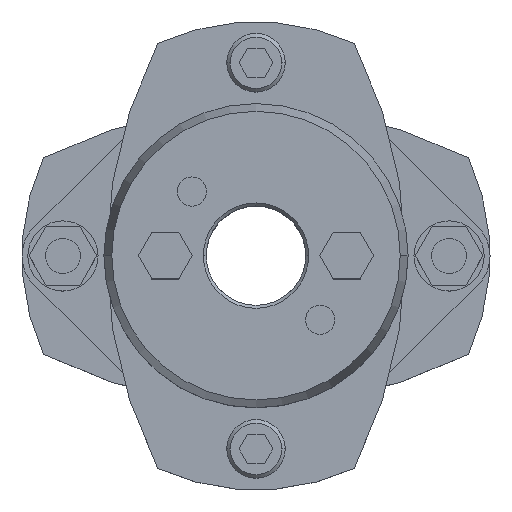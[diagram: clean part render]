
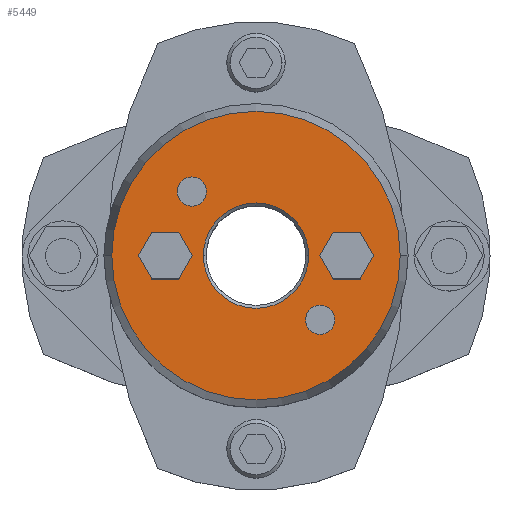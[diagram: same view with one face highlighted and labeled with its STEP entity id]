
A CAD part, top view. The second image highlights one B-rep face of the part: STEP entity #5449.
In plain terms, the highlighted planar face has unit normal (0, 0, 1).
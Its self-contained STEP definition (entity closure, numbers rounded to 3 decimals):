
#857=CARTESIAN_POINT('',(-9.,0.,35.875));
#858=VERTEX_POINT('',#857);
#874=CARTESIAN_POINT('',(9.,0.,35.875));
#875=VERTEX_POINT('',#874);
#882=CARTESIAN_POINT('',(0.,0.,35.875));
#883=DIRECTION('',(0.0,0.0,1.0));
#884=DIRECTION('',(-1.0,0.0,0.0));
#885=AXIS2_PLACEMENT_3D('',#882,#883,#884);
#886=CIRCLE('',#885,9.0);
#887=EDGE_CURVE('',#875,#858,#886,.T.);
#1045=CARTESIAN_POINT('',(24.66,0.,35.875));
#1046=VERTEX_POINT('',#1045);
#1053=CARTESIAN_POINT('',(-24.66,0.,35.875));
#1054=VERTEX_POINT('',#1053);
#1055=CARTESIAN_POINT('',(0.,0.,35.875));
#1056=DIRECTION('',(0.0,0.0,-1.0));
#1057=DIRECTION('',(1.0,0.0,0.0));
#1058=AXIS2_PLACEMENT_3D('',#1055,#1056,#1057);
#1059=CIRCLE('',#1058,24.66);
#1060=EDGE_CURVE('',#1046,#1054,#1059,.T.);
#1155=CARTESIAN_POINT('',(-13.46,10.96,35.875));
#1156=VERTEX_POINT('',#1155);
#1172=CARTESIAN_POINT('',(-8.46,10.96,35.875));
#1173=VERTEX_POINT('',#1172);
#1180=CARTESIAN_POINT('',(-10.96,10.96,35.875));
#1181=DIRECTION('',(0.0,0.0,-1.0));
#1182=DIRECTION('',(-1.0,0.0,0.0));
#1183=AXIS2_PLACEMENT_3D('',#1180,#1181,#1182);
#1184=CIRCLE('',#1183,2.5);
#1185=EDGE_CURVE('',#1156,#1173,#1184,.T.);
#1197=CARTESIAN_POINT('',(8.46,-10.96,35.875));
#1198=VERTEX_POINT('',#1197);
#1214=CARTESIAN_POINT('',(13.46,-10.96,35.875));
#1215=VERTEX_POINT('',#1214);
#1222=CARTESIAN_POINT('',(10.96,-10.96,35.875));
#1223=DIRECTION('',(0.0,0.0,-1.0));
#1224=DIRECTION('',(-1.0,0.0,0.0));
#1225=AXIS2_PLACEMENT_3D('',#1222,#1223,#1224);
#1226=CIRCLE('',#1225,2.5);
#1227=EDGE_CURVE('',#1198,#1215,#1226,.T.);
#4693=CARTESIAN_POINT('',(10.881,0.,35.875));
#4694=VERTEX_POINT('',#4693);
#4701=CARTESIAN_POINT('',(13.191,-4.,35.875));
#4702=VERTEX_POINT('',#4701);
#4703=CARTESIAN_POINT('',(13.191,-4.,35.875));
#4704=DIRECTION('',(-0.5,0.866,0.0));
#4705=VECTOR('',#4704,4.619);
#4706=LINE('',#4703,#4705);
#4707=EDGE_CURVE('',#4702,#4694,#4706,.T.);
#4731=CARTESIAN_POINT('',(13.191,4.,35.875));
#4732=VERTEX_POINT('',#4731);
#4739=CARTESIAN_POINT('',(10.881,0.,35.875));
#4740=DIRECTION('',(0.5,0.866,0.0));
#4741=VECTOR('',#4740,4.619);
#4742=LINE('',#4739,#4741);
#4743=EDGE_CURVE('',#4694,#4732,#4742,.T.);
#4762=CARTESIAN_POINT('',(17.809,4.,35.875));
#4763=VERTEX_POINT('',#4762);
#4770=CARTESIAN_POINT('',(13.191,4.,35.875));
#4771=DIRECTION('',(1.0,0.0,0.0));
#4772=VECTOR('',#4771,4.619);
#4773=LINE('',#4770,#4772);
#4774=EDGE_CURVE('',#4732,#4763,#4773,.T.);
#4793=CARTESIAN_POINT('',(20.119,0.,35.875));
#4794=VERTEX_POINT('',#4793);
#4801=CARTESIAN_POINT('',(17.809,4.,35.875));
#4802=DIRECTION('',(0.5,-0.866,0.0));
#4803=VECTOR('',#4802,4.619);
#4804=LINE('',#4801,#4803);
#4805=EDGE_CURVE('',#4763,#4794,#4804,.T.);
#4824=CARTESIAN_POINT('',(17.809,-4.,35.875));
#4825=VERTEX_POINT('',#4824);
#4832=CARTESIAN_POINT('',(20.119,0.,35.875));
#4833=DIRECTION('',(-0.5,-0.866,0.0));
#4834=VECTOR('',#4833,4.619);
#4835=LINE('',#4832,#4834);
#4836=EDGE_CURVE('',#4794,#4825,#4835,.T.);
#4854=CARTESIAN_POINT('',(17.809,-4.,35.875));
#4855=DIRECTION('',(-1.0,0.0,0.0));
#4856=VECTOR('',#4855,4.619);
#4857=LINE('',#4854,#4856);
#4858=EDGE_CURVE('',#4825,#4702,#4857,.T.);
#4893=CARTESIAN_POINT('',(-20.119,0.,35.875));
#4894=VERTEX_POINT('',#4893);
#4901=CARTESIAN_POINT('',(-17.809,-4.,35.875));
#4902=VERTEX_POINT('',#4901);
#4903=CARTESIAN_POINT('',(-17.809,-4.,35.875));
#4904=DIRECTION('',(-0.5,0.866,0.0));
#4905=VECTOR('',#4904,4.619);
#4906=LINE('',#4903,#4905);
#4907=EDGE_CURVE('',#4902,#4894,#4906,.T.);
#4931=CARTESIAN_POINT('',(-17.809,4.,35.875));
#4932=VERTEX_POINT('',#4931);
#4939=CARTESIAN_POINT('',(-20.119,0.,35.875));
#4940=DIRECTION('',(0.5,0.866,0.0));
#4941=VECTOR('',#4940,4.619);
#4942=LINE('',#4939,#4941);
#4943=EDGE_CURVE('',#4894,#4932,#4942,.T.);
#4962=CARTESIAN_POINT('',(-13.191,4.,35.875));
#4963=VERTEX_POINT('',#4962);
#4970=CARTESIAN_POINT('',(-17.809,4.,35.875));
#4971=DIRECTION('',(1.0,0.0,0.0));
#4972=VECTOR('',#4971,4.619);
#4973=LINE('',#4970,#4972);
#4974=EDGE_CURVE('',#4932,#4963,#4973,.T.);
#4993=CARTESIAN_POINT('',(-10.881,0.,35.875));
#4994=VERTEX_POINT('',#4993);
#5001=CARTESIAN_POINT('',(-13.191,4.,35.875));
#5002=DIRECTION('',(0.5,-0.866,0.0));
#5003=VECTOR('',#5002,4.619);
#5004=LINE('',#5001,#5003);
#5005=EDGE_CURVE('',#4963,#4994,#5004,.T.);
#5024=CARTESIAN_POINT('',(-13.191,-4.,35.875));
#5025=VERTEX_POINT('',#5024);
#5032=CARTESIAN_POINT('',(-10.881,0.,35.875));
#5033=DIRECTION('',(-0.5,-0.866,0.0));
#5034=VECTOR('',#5033,4.619);
#5035=LINE('',#5032,#5034);
#5036=EDGE_CURVE('',#4994,#5025,#5035,.T.);
#5054=CARTESIAN_POINT('',(-13.191,-4.,35.875));
#5055=DIRECTION('',(-1.0,0.0,0.0));
#5056=VECTOR('',#5055,4.619);
#5057=LINE('',#5054,#5056);
#5058=EDGE_CURVE('',#5025,#4902,#5057,.T.);
#5084=CARTESIAN_POINT('',(10.96,-10.96,35.875));
#5085=DIRECTION('',(0.0,0.0,-1.0));
#5086=DIRECTION('',(-1.0,0.0,0.0));
#5087=AXIS2_PLACEMENT_3D('',#5084,#5085,#5086);
#5088=CIRCLE('',#5087,2.5);
#5089=EDGE_CURVE('',#1215,#1198,#5088,.T.);
#5118=CARTESIAN_POINT('',(-10.96,10.96,35.875));
#5119=DIRECTION('',(0.0,0.0,-1.0));
#5120=DIRECTION('',(-1.0,0.0,0.0));
#5121=AXIS2_PLACEMENT_3D('',#5118,#5119,#5120);
#5122=CIRCLE('',#5121,2.5);
#5123=EDGE_CURVE('',#1173,#1156,#5122,.T.);
#5396=CARTESIAN_POINT('',(0.,0.,35.875));
#5397=DIRECTION('',(0.0,0.0,-1.0));
#5398=DIRECTION('',(1.0,0.0,0.0));
#5399=AXIS2_PLACEMENT_3D('',#5396,#5397,#5398);
#5400=CIRCLE('',#5399,24.66);
#5401=EDGE_CURVE('',#1054,#1046,#5400,.T.);
#5406=CARTESIAN_POINT('',(-2.364,0.,35.875));
#5407=DIRECTION('',(0.0,0.0,1.0));
#5408=DIRECTION('',(-1.0,0.0,0.0));
#5409=AXIS2_PLACEMENT_3D('',#5406,#5407,#5408);
#5410=PLANE('',#5409);
#5411=ORIENTED_EDGE('',*,*,#5401,.F.);
#5412=ORIENTED_EDGE('',*,*,#1060,.F.);
#5413=EDGE_LOOP('',(#5411,#5412));
#5414=FACE_OUTER_BOUND('',#5413,.T.);
#5415=ORIENTED_EDGE('',*,*,#4707,.T.);
#5416=ORIENTED_EDGE('',*,*,#4743,.T.);
#5417=ORIENTED_EDGE('',*,*,#4774,.T.);
#5418=ORIENTED_EDGE('',*,*,#4805,.T.);
#5419=ORIENTED_EDGE('',*,*,#4836,.T.);
#5420=ORIENTED_EDGE('',*,*,#4858,.T.);
#5421=EDGE_LOOP('',(#5415,#5416,#5417,#5418,#5419,#5420));
#5422=FACE_BOUND('',#5421,.T.);
#5423=ORIENTED_EDGE('',*,*,#4907,.T.);
#5424=ORIENTED_EDGE('',*,*,#4943,.T.);
#5425=ORIENTED_EDGE('',*,*,#4974,.T.);
#5426=ORIENTED_EDGE('',*,*,#5005,.T.);
#5427=ORIENTED_EDGE('',*,*,#5036,.T.);
#5428=ORIENTED_EDGE('',*,*,#5058,.T.);
#5429=EDGE_LOOP('',(#5423,#5424,#5425,#5426,#5427,#5428));
#5430=FACE_BOUND('',#5429,.T.);
#5431=ORIENTED_EDGE('',*,*,#1227,.T.);
#5432=ORIENTED_EDGE('',*,*,#5089,.T.);
#5433=EDGE_LOOP('',(#5431,#5432));
#5434=FACE_BOUND('',#5433,.T.);
#5435=ORIENTED_EDGE('',*,*,#1185,.T.);
#5436=ORIENTED_EDGE('',*,*,#5123,.T.);
#5437=EDGE_LOOP('',(#5435,#5436));
#5438=FACE_BOUND('',#5437,.T.);
#5439=ORIENTED_EDGE('',*,*,#887,.F.);
#5440=CARTESIAN_POINT('',(0.,0.,35.875));
#5441=DIRECTION('',(0.0,0.0,1.0));
#5442=DIRECTION('',(-1.0,0.0,0.0));
#5443=AXIS2_PLACEMENT_3D('',#5440,#5441,#5442);
#5444=CIRCLE('',#5443,9.0);
#5445=EDGE_CURVE('',#858,#875,#5444,.T.);
#5446=ORIENTED_EDGE('',*,*,#5445,.F.);
#5447=EDGE_LOOP('',(#5439,#5446));
#5448=FACE_BOUND('',#5447,.T.);
#5449=ADVANCED_FACE('',(#5414,#5422,#5430,#5434,#5438,#5448),#5410,.T.);
